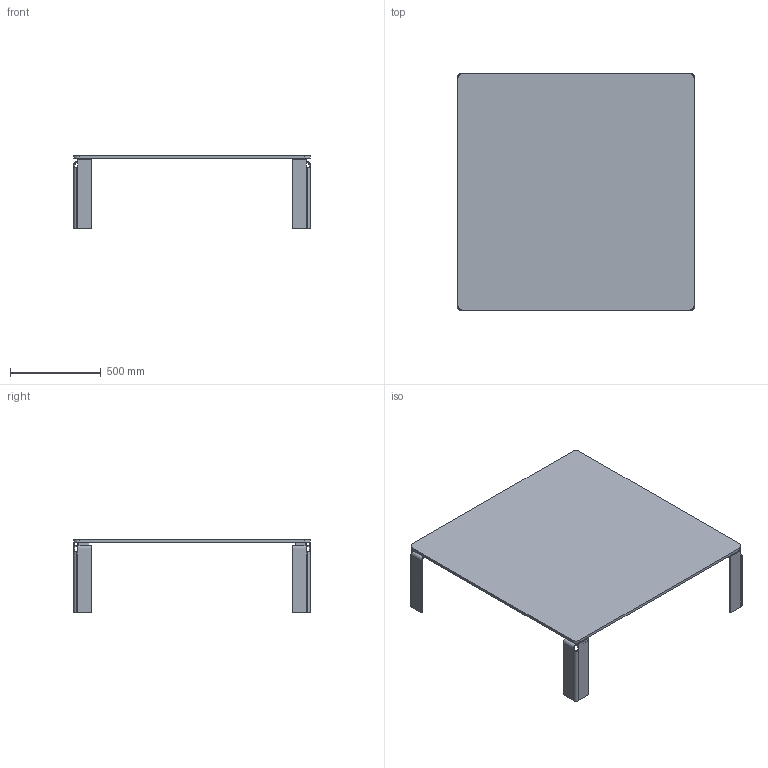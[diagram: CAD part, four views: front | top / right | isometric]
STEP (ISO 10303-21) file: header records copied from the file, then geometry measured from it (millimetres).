
FILE_DESCRIPTION(/* description */ (''),/* implementation_level */ '2;1');
FILE_NAME(/* name */ '107AC - Newton 130x130 H40 acciaio',/* time_stamp */ '2012-06-20T15:03:41+02:00',/* author */ (''),/* organization */ (''),/* preprocessor_version */ 'ST-DEVELOPER v10',/* originating_system */ '',/* authorisation */ '');
FILE_SCHEMA (('CONFIG_CONTROL_DESIGN'));
Length unit declared in the file: millimetre
Products named in the file (1): 1
Bounding box: 1300 x 1300 x 402 mm (x, y, z)
Volume: 27426605.8 mm3; surface area: 4152721 mm2
Topology: 9 solids, 9 shells, 158 faces, 396 edges, 248 vertices
Faces by surface type: bspline 92, plane 66
Entity records: 5144 total; most frequent: CARTESIAN_POINT 2636, ORIENTED_EDGE 792, EDGE_CURVE 396, VERTEX_POINT 248, B_SPLINE_CURVE_WITH_KNOTS 212, EDGE_LOOP 190, ADVANCED_FACE 158, FACE_OUTER_BOUND 158
